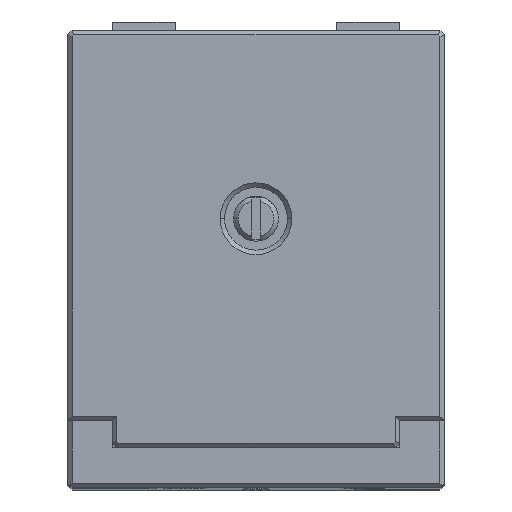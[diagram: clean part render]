
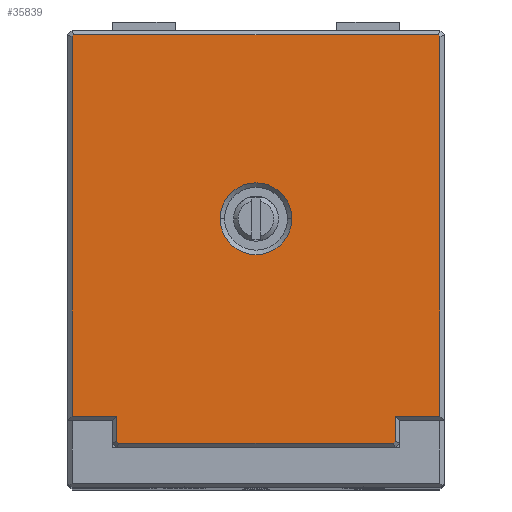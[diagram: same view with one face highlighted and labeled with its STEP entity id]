
A CAD part, top view. The second image highlights one B-rep face of the part: STEP entity #35839.
In plain terms, the highlighted planar face has unit normal (0, 0, 1) as drawn and (0, 0, -1) by its records, which use the part's own axes.
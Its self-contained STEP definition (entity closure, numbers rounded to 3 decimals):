
#13 = VERTEX_POINT ( 'NONE', #20168 ) ;
#686 = VERTEX_POINT ( 'NONE', #17584 ) ;
#1171 = CARTESIAN_POINT ( 'NONE',  ( 0., 3.5, 0. ) ) ;
#1388 = ORIENTED_EDGE ( 'NONE', *, *, #13357, .T. ) ;
#1704 = LINE ( 'NONE', #13322, #27016 ) ;
#2550 = EDGE_CURVE ( 'NONE', #9615, #15095, #21774, .T. ) ;
#2674 = VECTOR ( 'NONE', #22902, 1000. ) ;
#2698 = DIRECTION ( 'NONE',  ( -0.707, 0.707, 0. ) ) ;
#3070 = CARTESIAN_POINT ( 'NONE',  ( 25., 25.5, 0. ) ) ;
#3492 = ORIENTED_EDGE ( 'NONE', *, *, #28580, .T. ) ;
#3943 = AXIS2_PLACEMENT_3D ( 'NONE', #23211, #12302, #9597 ) ;
#4120 = CARTESIAN_POINT ( 'NONE',  ( 0.707, 46., 0. ) ) ;
#4187 = DIRECTION ( 'NONE',  ( 0.707, 0.707, 0. ) ) ;
#4285 = ORIENTED_EDGE ( 'NONE', *, *, #13824, .T. ) ;
#4410 = VECTOR ( 'NONE', #21050, 1000. ) ;
#4536 = LINE ( 'NONE', #10349, #7701 ) ;
#5607 = VECTOR ( 'NONE', #23115, 1000. ) ;
#5763 = EDGE_LOOP ( 'NONE', ( #3492, #16586 ) ) ;
#6169 = VERTEX_POINT ( 'NONE', #3070 ) ;
#6940 = ORIENTED_EDGE ( 'NONE', *, *, #26298, .T. ) ;
#7141 = DIRECTION ( 'NONE',  ( -1., 0., 0. ) ) ;
#7190 = ORIENTED_EDGE ( 'NONE', *, *, #16037, .T. ) ;
#7366 = VERTEX_POINT ( 'NONE', #23962 ) ;
#7434 = DIRECTION ( 'NONE',  ( 0., -1., 0. ) ) ;
#7701 = VECTOR ( 'NONE', #32482, 1000. ) ;
#8614 = CARTESIAN_POINT ( 'NONE',  ( 36.5, 3.5, 0. ) ) ;
#8811 = DIRECTION ( 'NONE',  ( -1., 0., 0. ) ) ;
#9099 = EDGE_CURVE ( 'NONE', #11618, #686, #14113, .T. ) ;
#9140 = CARTESIAN_POINT ( 'NONE',  ( 41.646, 45.646, 0. ) ) ;
#9597 = DIRECTION ( 'NONE',  ( -1., 0., 0. ) ) ;
#9615 = VERTEX_POINT ( 'NONE', #35826 ) ;
#9837 = LINE ( 'NONE', #26539, #5607 ) ;
#10293 = AXIS2_PLACEMENT_3D ( 'NONE', #15143, #26563, #7141 ) ;
#10349 = CARTESIAN_POINT ( 'NONE',  ( 5.5, 0.5, 0. ) ) ;
#10634 = EDGE_CURVE ( 'NONE', #13, #17258, #32321, .T. ) ;
#11188 = CARTESIAN_POINT ( 'NONE',  ( 36.5, 0.5, 0. ) ) ;
#11524 = VERTEX_POINT ( 'NONE', #30748 ) ;
#11618 = VERTEX_POINT ( 'NONE', #8614 ) ;
#12302 = DIRECTION ( 'NONE',  ( 0., 0., 1. ) ) ;
#13118 = ORIENTED_EDGE ( 'NONE', *, *, #14443, .T. ) ;
#13290 = DIRECTION ( 'NONE',  ( -0.707, -0.707, 0. ) ) ;
#13322 = CARTESIAN_POINT ( 'NONE',  ( 5.5, 3., 0. ) ) ;
#13357 = EDGE_CURVE ( 'NONE', #15095, #13925, #1704, .T. ) ;
#13463 = LINE ( 'NONE', #21103, #28231 ) ;
#13824 = EDGE_CURVE ( 'NONE', #7366, #11524, #33992, .T. ) ;
#13925 = VERTEX_POINT ( 'NONE', #18553 ) ;
#14113 = LINE ( 'NONE', #11188, #17567 ) ;
#14117 = VERTEX_POINT ( 'NONE', #16906 ) ;
#14443 = EDGE_CURVE ( 'NONE', #17258, #7366, #9837, .T. ) ;
#15095 = VERTEX_POINT ( 'NONE', #32295 ) ;
#15143 = CARTESIAN_POINT ( 'NONE',  ( 21., 25.5, 0. ) ) ;
#15631 = CARTESIAN_POINT ( 'NONE',  ( 0.854, 46.146, 0. ) ) ;
#16037 = EDGE_CURVE ( 'NONE', #13925, #26760, #28773, .T. ) ;
#16586 = ORIENTED_EDGE ( 'NONE', *, *, #30229, .T. ) ;
#16906 = CARTESIAN_POINT ( 'NONE',  ( 41.5, 3.5, 0. ) ) ;
#16945 = ORIENTED_EDGE ( 'NONE', *, *, #35292, .T. ) ;
#17258 = VERTEX_POINT ( 'NONE', #4120 ) ;
#17567 = VECTOR ( 'NONE', #22281, 1000. ) ;
#17584 = CARTESIAN_POINT ( 'NONE',  ( 36.5, 0.707, 0. ) ) ;
#18121 = FACE_OUTER_BOUND ( 'NONE', #25183, .T. ) ;
#18239 = DIRECTION ( 'NONE',  ( 0., 1., 0. ) ) ;
#18553 = CARTESIAN_POINT ( 'NONE',  ( 5.5, 3.5, 0. ) ) ;
#18692 = LINE ( 'NONE', #29219, #4410 ) ;
#20168 = CARTESIAN_POINT ( 'NONE',  ( 0.5, 45.793, 0. ) ) ;
#20213 = DIRECTION ( 'NONE',  ( 0.707, -0.707, 0. ) ) ;
#20793 = CARTESIAN_POINT ( 'NONE',  ( 36.293, 0.5, 0. ) ) ;
#20807 = ORIENTED_EDGE ( 'NONE', *, *, #9099, .T. ) ;
#21050 = DIRECTION ( 'NONE',  ( 0., 1., 0. ) ) ;
#21103 = CARTESIAN_POINT ( 'NONE',  ( 36.146, 0.354, 0. ) ) ;
#21208 = CARTESIAN_POINT ( 'NONE',  ( 0., 0., 0. ) ) ;
#21774 = LINE ( 'NONE', #35723, #35348 ) ;
#22281 = DIRECTION ( 'NONE',  ( 0., -1., 0. ) ) ;
#22902 = DIRECTION ( 'NONE',  ( -1., 0., 0. ) ) ;
#23078 = LINE ( 'NONE', #34482, #2674 ) ;
#23115 = DIRECTION ( 'NONE',  ( 1., 0., 0. ) ) ;
#23190 = ORIENTED_EDGE ( 'NONE', *, *, #10634, .T. ) ;
#23211 = CARTESIAN_POINT ( 'NONE',  ( 21., 25.5, 0. ) ) ;
#23743 = DIRECTION ( 'NONE',  ( 0., 0., -1. ) ) ;
#23962 = CARTESIAN_POINT ( 'NONE',  ( 41.293, 46., 0. ) ) ;
#25010 = CARTESIAN_POINT ( 'NONE',  ( 0.5, 3.5, 0. ) ) ;
#25138 = AXIS2_PLACEMENT_3D ( 'NONE', #21208, #23743, #34790 ) ;
#25183 = EDGE_LOOP ( 'NONE', ( #1388, #7190, #29970, #23190, #13118, #4285, #29244, #6940, #20807, #35138, #16945, #26795 ) ) ;
#25955 = VECTOR ( 'NONE', #7434, 1000. ) ;
#26298 = EDGE_CURVE ( 'NONE', #14117, #11618, #23078, .T. ) ;
#26439 = VERTEX_POINT ( 'NONE', #29399 ) ;
#26508 = EDGE_CURVE ( 'NONE', #26760, #13, #18692, .T. ) ;
#26539 = CARTESIAN_POINT ( 'NONE',  ( 41.5, 46., 0. ) ) ;
#26545 = CIRCLE ( 'NONE', #3943, 4. ) ;
#26563 = DIRECTION ( 'NONE',  ( 0., 0., 1. ) ) ;
#26760 = VERTEX_POINT ( 'NONE', #25010 ) ;
#26795 = ORIENTED_EDGE ( 'NONE', *, *, #2550, .T. ) ;
#27016 = VECTOR ( 'NONE', #18239, 1000. ) ;
#27093 = CIRCLE ( 'NONE', #10293, 4. ) ;
#27745 = EDGE_CURVE ( 'NONE', #686, #34243, #13463, .T. ) ;
#28231 = VECTOR ( 'NONE', #13290, 1000. ) ;
#28369 = EDGE_CURVE ( 'NONE', #11524, #14117, #35197, .T. ) ;
#28580 = EDGE_CURVE ( 'NONE', #26439, #6169, #26545, .T. ) ;
#28773 = LINE ( 'NONE', #1171, #35378 ) ;
#29219 = CARTESIAN_POINT ( 'NONE',  ( 0.5, 46., 0. ) ) ;
#29244 = ORIENTED_EDGE ( 'NONE', *, *, #28369, .T. ) ;
#29368 = PLANE ( 'NONE',  #25138 ) ;
#29399 = CARTESIAN_POINT ( 'NONE',  ( 17., 25.5, 0. ) ) ;
#29970 = ORIENTED_EDGE ( 'NONE', *, *, #26508, .T. ) ;
#30229 = EDGE_CURVE ( 'NONE', #6169, #26439, #27093, .T. ) ;
#30748 = CARTESIAN_POINT ( 'NONE',  ( 41.5, 45.793, 0. ) ) ;
#32078 = FACE_BOUND ( 'NONE', #5763, .T. ) ;
#32295 = CARTESIAN_POINT ( 'NONE',  ( 5.5, 0.707, 0. ) ) ;
#32301 = CARTESIAN_POINT ( 'NONE',  ( 41.5, 3., 0. ) ) ;
#32321 = LINE ( 'NONE', #15631, #33840 ) ;
#32482 = DIRECTION ( 'NONE',  ( -1., 0., 0. ) ) ;
#33411 = VECTOR ( 'NONE', #20213, 1000. ) ;
#33840 = VECTOR ( 'NONE', #4187, 1000. ) ;
#33992 = LINE ( 'NONE', #9140, #33411 ) ;
#34243 = VERTEX_POINT ( 'NONE', #20793 ) ;
#34482 = CARTESIAN_POINT ( 'NONE',  ( 37., 3.5, 0. ) ) ;
#34790 = DIRECTION ( 'NONE',  ( -1., 0., 0. ) ) ;
#35138 = ORIENTED_EDGE ( 'NONE', *, *, #27745, .T. ) ;
#35197 = LINE ( 'NONE', #32301, #25955 ) ;
#35292 = EDGE_CURVE ( 'NONE', #34243, #9615, #4536, .T. ) ;
#35348 = VECTOR ( 'NONE', #2698, 1000. ) ;
#35378 = VECTOR ( 'NONE', #8811, 1000. ) ;
#35723 = CARTESIAN_POINT ( 'NONE',  ( 5.354, 0.854, 0. ) ) ;
#35826 = CARTESIAN_POINT ( 'NONE',  ( 5.707, 0.5, 0. ) ) ;
#35839 = ADVANCED_FACE ( 'NONE', ( #18121, #32078 ), #29368, .T. ) ;
